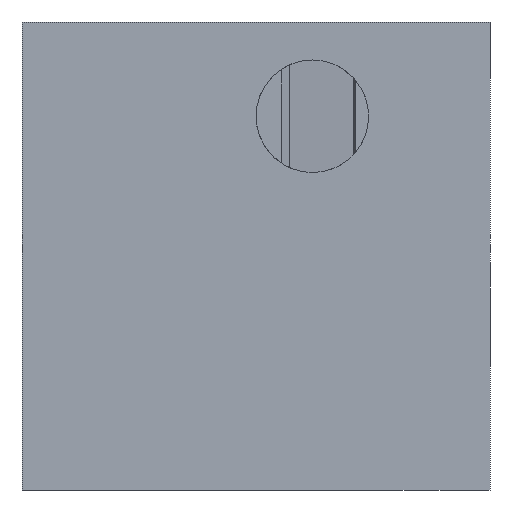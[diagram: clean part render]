
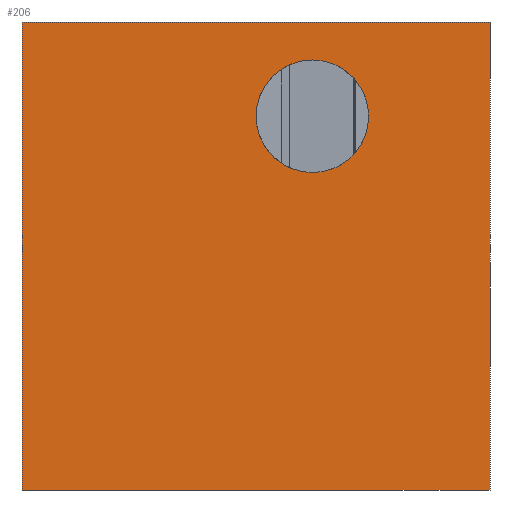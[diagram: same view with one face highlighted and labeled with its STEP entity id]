
A CAD part, left-side view. The second image highlights one B-rep face of the part: STEP entity #206.
In plain terms, the highlighted planar face has unit normal (-1, 0, 0).
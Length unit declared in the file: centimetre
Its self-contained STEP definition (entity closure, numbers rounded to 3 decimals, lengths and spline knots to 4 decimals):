
#4 = AXIS2_PLACEMENT_3D ( 'NONE', #177, #1112, #908 ) ;
#39 = VECTOR ( 'NONE', #241, 100. ) ;
#68 = CARTESIAN_POINT ( 'NONE',  ( 0., 1000., 1000. ) ) ;
#69 = EDGE_CURVE ( 'NONE', #986, #220, #441, .T. ) ;
#177 = CARTESIAN_POINT ( 'NONE',  ( 0., 379.6167, 798.6388 ) ) ;
#206 = ADVANCED_FACE ( 'NONE', ( #732, #530 ), #520, .F. ) ;
#214 = EDGE_CURVE ( 'NONE', #545, #999, #511, .T. ) ;
#220 = VERTEX_POINT ( 'NONE', #968 ) ;
#241 = DIRECTION ( 'NONE',  ( 0., 0., -1. ) ) ;
#249 = LINE ( 'NONE', #1277, #1187 ) ;
#259 = DIRECTION ( 'NONE',  ( 0., -1., 0. ) ) ;
#300 = CARTESIAN_POINT ( 'NONE',  ( 0., 0., 1000. ) ) ;
#336 = EDGE_CURVE ( 'NONE', #1212, #649, #356, .T. ) ;
#341 = CARTESIAN_POINT ( 'NONE',  ( 0., 0., 0. ) ) ;
#356 = LINE ( 'NONE', #589, #39 ) ;
#360 = CARTESIAN_POINT ( 'NONE',  ( 0., 379.6167, 798.6388 ) ) ;
#411 = ORIENTED_EDGE ( 'NONE', *, *, #214, .F. ) ;
#413 = CARTESIAN_POINT ( 'NONE',  ( 0., 1000., 1000. ) ) ;
#441 = CIRCLE ( 'NONE', #1193, 120.3196 ) ;
#443 = ORIENTED_EDGE ( 'NONE', *, *, #1448, .F. ) ;
#482 = EDGE_CURVE ( 'NONE', #649, #999, #249, .T. ) ;
#511 = LINE ( 'NONE', #300, #1308 ) ;
#520 = PLANE ( 'NONE',  #626 ) ;
#530 = FACE_OUTER_BOUND ( 'NONE', #620, .T. ) ;
#545 = VERTEX_POINT ( 'NONE', #645 ) ;
#589 = CARTESIAN_POINT ( 'NONE',  ( 0., 1000., 1000. ) ) ;
#616 = DIRECTION ( 'NONE',  ( 0., 0., -1. ) ) ;
#620 = EDGE_LOOP ( 'NONE', ( #1093, #411, #443, #648 ) ) ;
#626 = AXIS2_PLACEMENT_3D ( 'NONE', #68, #1195, #616 ) ;
#645 = CARTESIAN_POINT ( 'NONE',  ( 0., 0., 1000. ) ) ;
#648 = ORIENTED_EDGE ( 'NONE', *, *, #336, .T. ) ;
#649 = VERTEX_POINT ( 'NONE', #812 ) ;
#732 = FACE_BOUND ( 'NONE', #967, .T. ) ;
#748 = DIRECTION ( 'NONE',  ( 0., 0., -1. ) ) ;
#759 = CIRCLE ( 'NONE', #4, 120.3196 ) ;
#812 = CARTESIAN_POINT ( 'NONE',  ( 0., 1000., 0. ) ) ;
#831 = CARTESIAN_POINT ( 'NONE',  ( 0., 1000., 1000. ) ) ;
#838 = ORIENTED_EDGE ( 'NONE', *, *, #69, .F. ) ;
#908 = DIRECTION ( 'NONE',  ( 0., 0., 1. ) ) ;
#935 = LINE ( 'NONE', #831, #1248 ) ;
#939 = DIRECTION ( 'NONE',  ( -1., 0., 0. ) ) ;
#967 = EDGE_LOOP ( 'NONE', ( #1263, #838 ) ) ;
#968 = CARTESIAN_POINT ( 'NONE',  ( 0., 379.6167, 918.9585 ) ) ;
#986 = VERTEX_POINT ( 'NONE', #1134 ) ;
#999 = VERTEX_POINT ( 'NONE', #341 ) ;
#1093 = ORIENTED_EDGE ( 'NONE', *, *, #482, .T. ) ;
#1112 = DIRECTION ( 'NONE',  ( -1., 0., 0. ) ) ;
#1134 = CARTESIAN_POINT ( 'NONE',  ( 0., 379.6167, 678.3192 ) ) ;
#1187 = VECTOR ( 'NONE', #1268, 100. ) ;
#1193 = AXIS2_PLACEMENT_3D ( 'NONE', #360, #939, #1401 ) ;
#1195 = DIRECTION ( 'NONE',  ( 1., 0., 0. ) ) ;
#1212 = VERTEX_POINT ( 'NONE', #413 ) ;
#1234 = EDGE_CURVE ( 'NONE', #220, #986, #759, .T. ) ;
#1248 = VECTOR ( 'NONE', #259, 100. ) ;
#1263 = ORIENTED_EDGE ( 'NONE', *, *, #1234, .F. ) ;
#1268 = DIRECTION ( 'NONE',  ( 0., -1., 0. ) ) ;
#1277 = CARTESIAN_POINT ( 'NONE',  ( 0., 1000., 0. ) ) ;
#1308 = VECTOR ( 'NONE', #748, 100. ) ;
#1401 = DIRECTION ( 'NONE',  ( 0., 0., 1. ) ) ;
#1448 = EDGE_CURVE ( 'NONE', #1212, #545, #935, .T. ) ;
